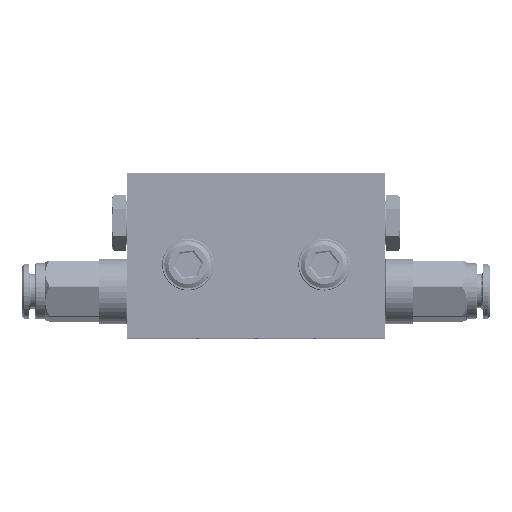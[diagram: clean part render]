
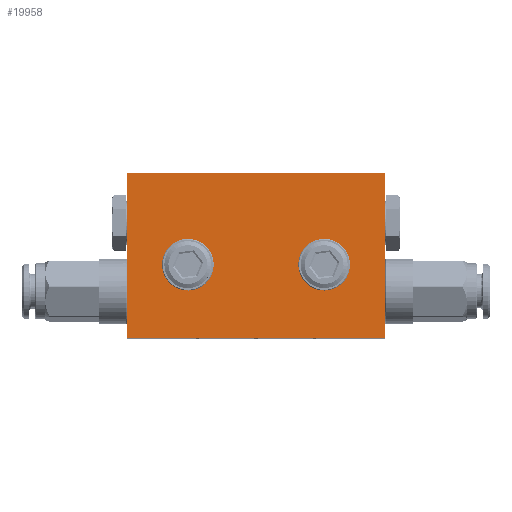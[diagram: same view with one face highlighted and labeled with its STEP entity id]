
A CAD part, top view. The second image highlights one B-rep face of the part: STEP entity #19958.
In plain terms, the highlighted planar face has unit normal (0, 0, 1) as drawn and (0, 0, -1) by its records, which use the part's own axes.
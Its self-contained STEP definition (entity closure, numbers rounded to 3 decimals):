
#56 = CARTESIAN_POINT ( 'NONE',  ( 0., 0., -4.85 ) ) ;
#1706 = EDGE_CURVE ( 'NONE', #41063, #41063, #8819, .T. ) ;
#2842 = DIRECTION ( 'NONE',  ( 0., -1., 0. ) ) ;
#3249 = DIRECTION ( 'NONE',  ( 0., 0., -1. ) ) ;
#3746 = VERTEX_POINT ( 'NONE', #8546 ) ;
#4239 = CARTESIAN_POINT ( 'NONE',  ( -14.5, -15.5, -4.85 ) ) ;
#4978 = VERTEX_POINT ( 'NONE', #33305 ) ;
#5668 = LINE ( 'NONE', #47124, #42153 ) ;
#6872 = EDGE_CURVE ( 'NONE', #36575, #4978, #19542, .T. ) ;
#6929 = CARTESIAN_POINT ( 'NONE',  ( 14.5, -15.5, -4.85 ) ) ;
#7056 = ORIENTED_EDGE ( 'NONE', *, *, #1706, .F. ) ;
#7431 = CARTESIAN_POINT ( 'NONE',  ( -11.4, -15.5, -4.85 ) ) ;
#8523 = ORIENTED_EDGE ( 'NONE', *, *, #6872, .F. ) ;
#8546 = CARTESIAN_POINT ( 'NONE',  ( -27.5, -35., -4.85 ) ) ;
#8819 = CIRCLE ( 'NONE', #21313, 3.1 ) ;
#9006 = DIRECTION ( 'NONE',  ( 0., 1., 0. ) ) ;
#9313 = DIRECTION ( 'NONE',  ( 1., 0., 0. ) ) ;
#9659 = EDGE_CURVE ( 'NONE', #17271, #3746, #27406, .T. ) ;
#9895 = VECTOR ( 'NONE', #2842, 1000. ) ;
#11901 = CARTESIAN_POINT ( 'NONE',  ( 27.5, -35., -4.85 ) ) ;
#13865 = EDGE_CURVE ( 'NONE', #4978, #17271, #30271, .T. ) ;
#14322 = DIRECTION ( 'NONE',  ( -1., 0., 0. ) ) ;
#17271 = VERTEX_POINT ( 'NONE', #44680 ) ;
#18544 = EDGE_LOOP ( 'NONE', ( #28789 ) ) ;
#19182 = DIRECTION ( 'NONE',  ( 0., 0., -1. ) ) ;
#19542 = LINE ( 'NONE', #27637, #28539 ) ;
#19958 = ADVANCED_FACE ( 'NONE', ( #31908, #31661, #46840 ), #42644, .F. ) ;
#21313 = AXIS2_PLACEMENT_3D ( 'NONE', #4239, #19182, #45709 ) ;
#22114 = DIRECTION ( 'NONE',  ( -1., 0., 0. ) ) ;
#22196 = CARTESIAN_POINT ( 'NONE',  ( 11.4, -15.5, -4.85 ) ) ;
#23823 = EDGE_CURVE ( 'NONE', #3746, #36575, #5668, .T. ) ;
#24274 = AXIS2_PLACEMENT_3D ( 'NONE', #6929, #3249, #22114 ) ;
#25022 = CIRCLE ( 'NONE', #24274, 3.1 ) ;
#25227 = VECTOR ( 'NONE', #14322, 1000. ) ;
#25633 = CARTESIAN_POINT ( 'NONE',  ( -27.5, 0., -4.85 ) ) ;
#27406 = LINE ( 'NONE', #25633, #9895 ) ;
#27411 = ORIENTED_EDGE ( 'NONE', *, *, #13865, .F. ) ;
#27637 = CARTESIAN_POINT ( 'NONE',  ( 27.5, 0., -4.85 ) ) ;
#27702 = CARTESIAN_POINT ( 'NONE',  ( 0., 0., -4.85 ) ) ;
#28539 = VECTOR ( 'NONE', #9006, 1000. ) ;
#28789 = ORIENTED_EDGE ( 'NONE', *, *, #34286, .F. ) ;
#30271 = LINE ( 'NONE', #56, #25227 ) ;
#31128 = ORIENTED_EDGE ( 'NONE', *, *, #23823, .F. ) ;
#31661 = FACE_BOUND ( 'NONE', #18544, .T. ) ;
#31908 = FACE_BOUND ( 'NONE', #38326, .T. ) ;
#33305 = CARTESIAN_POINT ( 'NONE',  ( 27.5, 0., -4.85 ) ) ;
#34286 = EDGE_CURVE ( 'NONE', #36519, #36519, #25022, .T. ) ;
#34369 = EDGE_LOOP ( 'NONE', ( #31128, #42371, #27411, #8523 ) ) ;
#35262 = AXIS2_PLACEMENT_3D ( 'NONE', #27702, #42894, #9313 ) ;
#35646 = DIRECTION ( 'NONE',  ( 1., 0., 0. ) ) ;
#36519 = VERTEX_POINT ( 'NONE', #22196 ) ;
#36575 = VERTEX_POINT ( 'NONE', #11901 ) ;
#38326 = EDGE_LOOP ( 'NONE', ( #7056 ) ) ;
#41063 = VERTEX_POINT ( 'NONE', #7431 ) ;
#42153 = VECTOR ( 'NONE', #35646, 1000. ) ;
#42371 = ORIENTED_EDGE ( 'NONE', *, *, #9659, .F. ) ;
#42644 = PLANE ( 'NONE',  #35262 ) ;
#42894 = DIRECTION ( 'NONE',  ( 0., 0., 1. ) ) ;
#44680 = CARTESIAN_POINT ( 'NONE',  ( -27.5, 0., -4.85 ) ) ;
#45709 = DIRECTION ( 'NONE',  ( 1., 0., 0. ) ) ;
#46840 = FACE_OUTER_BOUND ( 'NONE', #34369, .T. ) ;
#47124 = CARTESIAN_POINT ( 'NONE',  ( 0., -35., -4.85 ) ) ;
